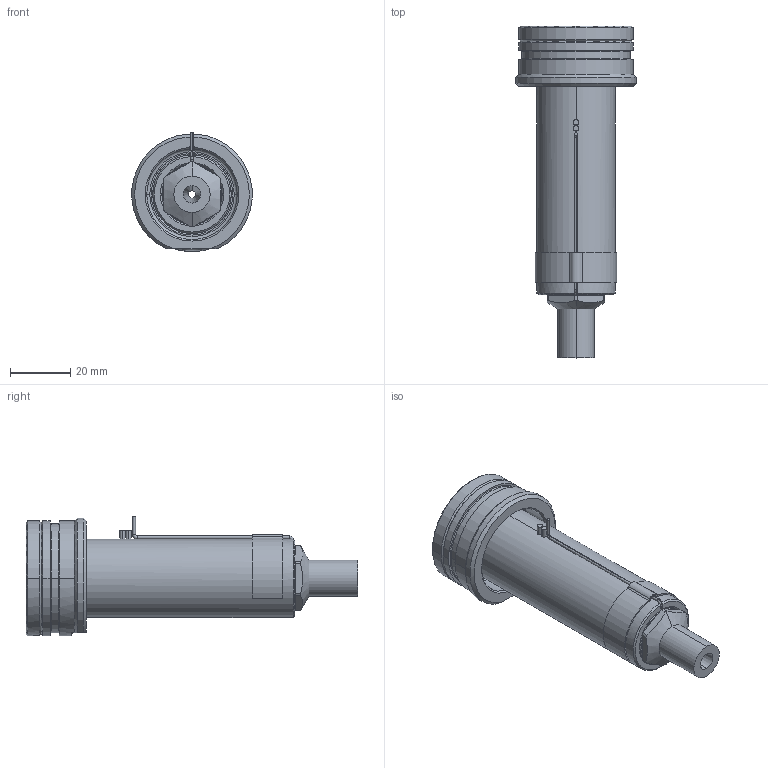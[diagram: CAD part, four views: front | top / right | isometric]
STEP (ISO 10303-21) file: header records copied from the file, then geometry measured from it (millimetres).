
FILE_DESCRIPTION((''),'2;1');
FILE_NAME('EO08_VG-ST_ESG_080_SW','2024-02-19T12:43:54',('sundharh'),(''),'CREO PARAMETRIC BY PTC INC, 2023154','CREO PARAMETRIC BY PTC INC, 2023154','');
FILE_SCHEMA(('CONFIG_CONTROL_DESIGN'));
Length unit declared in the file: millimetre
Products named in the file (1): EO08_VG-ST_ESG_080_SW
Bounding box: 39.88 x 110 x 39.52 mm (x, y, z)
Volume: 55447.2 mm3; surface area: 16982.2 mm2
Topology: 1 solids, 1 shells, 174 faces, 438 edges, 269 vertices
Faces by surface type: cylinder 64, plane 44, cone 37, torus 19, bspline 8, sphere 2
Entity records: 6487 total; most frequent: CARTESIAN_POINT 2223, DIRECTION 941, ORIENTED_EDGE 868, EDGE_CURVE 434, AXIS2_PLACEMENT_3D 390, VERTEX_POINT 269, CIRCLE 224, EDGE_LOOP 189
